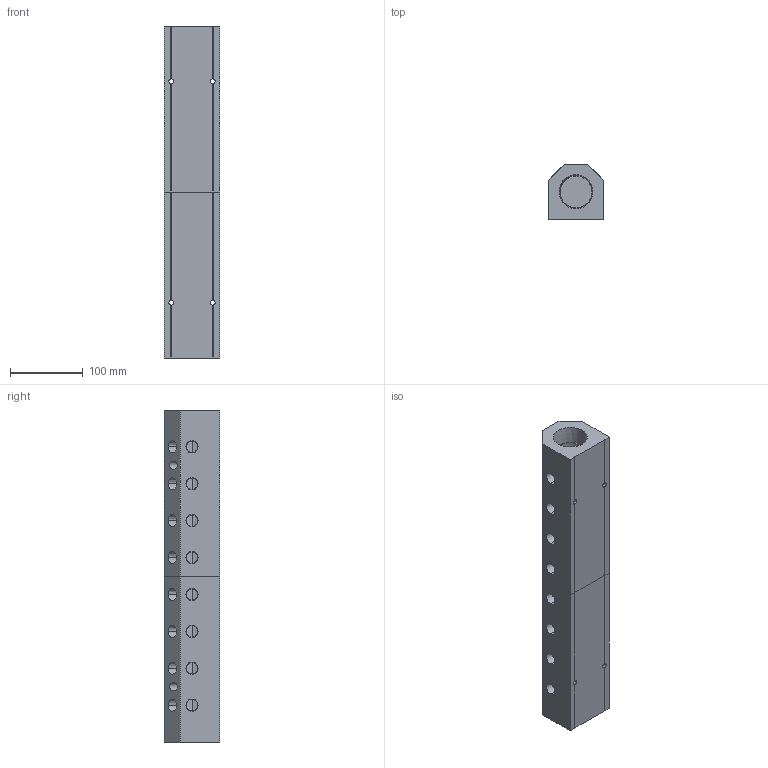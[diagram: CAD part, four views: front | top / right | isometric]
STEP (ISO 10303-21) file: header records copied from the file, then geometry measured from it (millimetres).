
FILE_DESCRIPTION (( 'STEP AP214' ), '1' );
FILE_NAME ('ALM8AB-N6N24-457RB.step', '2022-02-07T09:16:09', ( '' ), ( '' ), 'SwSTEP 2.0', 'SolidWorks 2020', '' );
FILE_SCHEMA (( 'AUTOMOTIVE_DESIGN' ));
Length unit declared in the file: millimetre
Products named in the file (1): ALM8AB-N6N24-457RB
Bounding box: 76.2 x 76.2 x 457 mm (x, y, z)
Volume: 1652518.2 mm3; surface area: 224242.9 mm2
Topology: 2 solids, 2 shells, 371 faces, 981 edges, 646 vertices
Faces by surface type: plane 248, bspline 67, cone 36, cylinder 20
Entity records: 20431 total; most frequent: CARTESIAN_POINT 8170, ORIENTED_EDGE 1962, DIRECTION 1481, EDGE_CURVE 981, LINE 727, VECTOR 727, VERTEX_POINT 646, EDGE_LOOP 443
